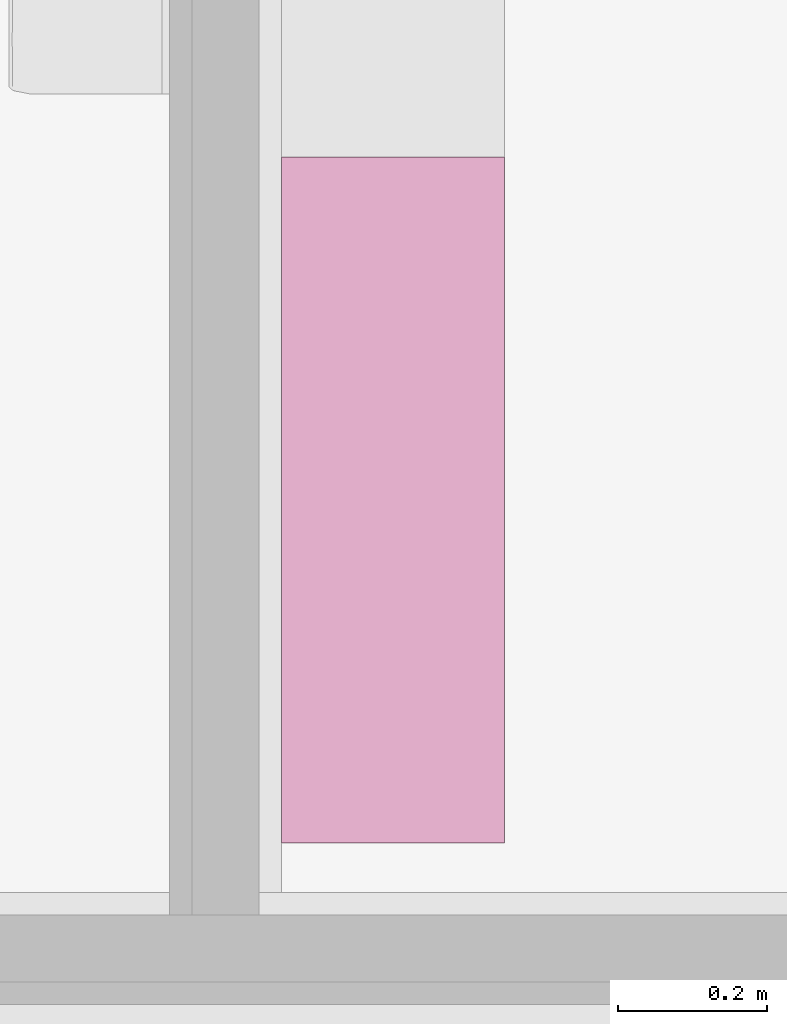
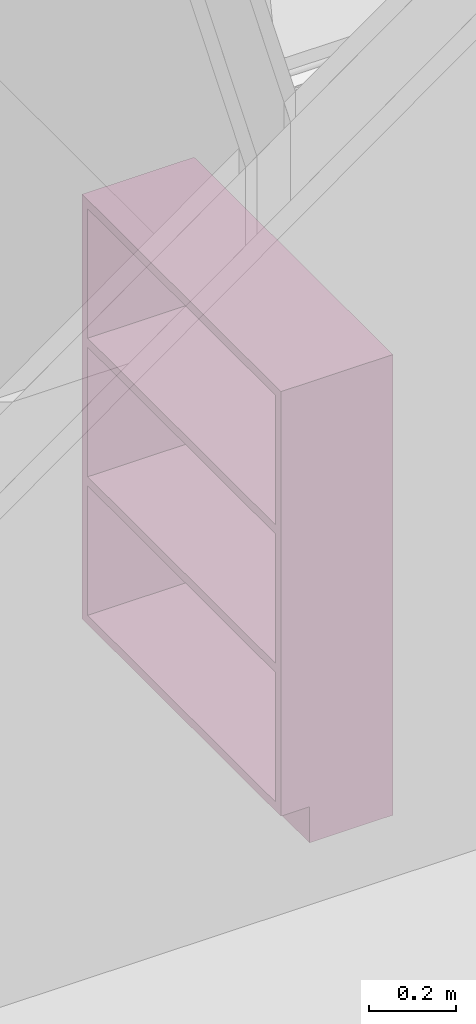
# One storey, part 74 of 155: 1 furnishing.
"""IFC2X3 building model written with IfcOpenShell, lengths in metres."""

import ifcopenshell
import ifcopenshell.guid

model = None  # the IFC model being written
_history = None  # IfcOwnerHistory: only IFC2X3 demands one
_inside = {}  # id of a spatial element -> (the spatial element, [elements in it])
_under = {}  # id of a project, library or spatial element -> (it, [spatial elements below it])
_declared = {}  # id of a project -> (the project, [libraries it declares])
_typed = {}  # id of a type object -> (the type object, [elements of that type])
_made_of = {}  # id of a material, layer set ... -> (it, [elements and type objects made of it])


def new_model(schema):
    """Start an empty IFC model of exactly this schema.

    Asked for "IFC4X3", IfcOpenShell would pick the latest addendum, in which some entities
    have other attributes; the version numbers below select the first issue.
    IFC2X3 requires an IfcOwnerHistory on every rooted entity: one is made here for all.
    """
    global model, _history
    if schema == "IFC4X3":
        model = ifcopenshell.file(schema_version=(4, 3, 0, 0))
    else:
        model = ifcopenshell.file(schema=schema)
    _inside.clear()
    _under.clear()
    _declared.clear()
    _typed.clear()
    _made_of.clear()
    _history = None
    if model.schema == "IFC2X3":
        org = make("IfcOrganization", Name="unknown")
        user = make(
            "IfcPersonAndOrganization",
            ThePerson=make("IfcPerson", FamilyName="unknown"),
            TheOrganization=org,
        )
        app = make(
            "IfcApplication",
            ApplicationDeveloper=org,
            Version="unknown",
            ApplicationFullName="unknown",
            ApplicationIdentifier="unknown",
        )
        _history = make(
            "IfcOwnerHistory",
            OwningUser=user,
            OwningApplication=app,
            ChangeAction="ADDED",
            CreationDate=0,
        )
    return model


def make(cls, **values):
    """One entity of the class cls with the attributes given. An attribute that is None is left unset."""
    return model.create_entity(
        cls, **{name: value for name, value in values.items() if value is not None}
    )


def entity(cls, *values):
    """Any entity or typed value of the class cls, its attributes in the order of the schema. None: left unset."""
    e = model.create_entity(cls)
    for i, value in enumerate(values):
        if value is not None:
            e[i] = value
    return e


def rooted(cls, **values):
    """An entity with a GlobalId (a new one), such as an element, a storey or a relation."""
    return make(cls, GlobalId=ifcopenshell.guid.new(), OwnerHistory=_history, **values)


def si_unit(unit_type, name, prefix=None):
    """IfcSIUnit, for example si_unit("LENGTHUNIT", "METRE", prefix="MILLI")."""
    return make("IfcSIUnit", UnitType=unit_type, Prefix=prefix, Name=name)


def converted_unit(unit_type, name, factor, base, dimensions=None, offset=None):
    """IfcConversionBasedUnit, such as the inch: factor (a typed value) times the base unit."""
    return make(
        "IfcConversionBasedUnit"
        if offset is None
        else "IfcConversionBasedUnitWithOffset",
        ConversionOffset=offset,
        Dimensions=None
        if dimensions is None
        else entity("IfcDimensionalExponents", *dimensions),
        UnitType=unit_type,
        Name=name,
        ConversionFactor=make(
            "IfcMeasureWithUnit", ValueComponent=factor, UnitComponent=base
        ),
    )


def derived_unit(unit_type, elements):
    """IfcDerivedUnit: a product of units, each with its exponent."""
    return make(
        "IfcDerivedUnit",
        Elements=[
            make("IfcDerivedUnitElement", Unit=unit, Exponent=power)
            for unit, power in elements
        ],
        UnitType=unit_type,
    )


def assignment(units):
    """IfcUnitAssignment: the units of a project."""
    return None if units is None else make("IfcUnitAssignment", Units=units)


def point(xyz):
    """IfcCartesianPoint."""
    return None if xyz is None else make("IfcCartesianPoint", Coordinates=xyz)


def direction(xyz):
    """IfcDirection."""
    return None if xyz is None else make("IfcDirection", DirectionRatios=xyz)


def frame(location, z_axis=None, x_axis=None):
    """IfcAxis2Placement3D, a coordinate frame: its origin and axes. An axis left out is left unset."""
    return make(
        "IfcAxis2Placement3D",
        Location=point(location),
        Axis=direction(z_axis),
        RefDirection=direction(x_axis),
    )


def frame_2d(location, x_axis=None):
    """IfcAxis2Placement2D, a coordinate frame in the plane: its origin and x axis."""
    return make(
        "IfcAxis2Placement2D", Location=point(location), RefDirection=direction(x_axis)
    )


def origin():
    """The frame at (0, 0, 0) with its axes left unset."""
    return frame((0.0, 0.0, 0.0))


def origin_2d_with_axis():
    """The frame at (0, 0) in the plane with the x axis (1, 0) written out."""
    return frame_2d((0.0, 0.0), x_axis=(1.0, 0.0))


def place(relative_to, where):
    """IfcLocalPlacement: puts the frame where relative to a parent placement (None: the world)."""
    return make(
        "IfcLocalPlacement", PlacementRelTo=relative_to, RelativePlacement=where
    )


def context(
    kind, dimensions, precision=None, world=None, true_north=None, identifier=None
):
    """IfcGeometricRepresentationContext, for example the 3D "Model" context."""
    return make(
        "IfcGeometricRepresentationContext",
        ContextIdentifier=identifier,
        ContextType=kind,
        CoordinateSpaceDimension=dimensions,
        Precision=precision,
        WorldCoordinateSystem=world,
        TrueNorth=true_north,
    )


def subcontext(parent, identifier, kind, view, scale=None):
    """IfcGeometricRepresentationSubContext, for example "Body" below "Model"."""
    return make(
        "IfcGeometricRepresentationSubContext",
        ContextIdentifier=identifier,
        ContextType=kind,
        ParentContext=parent,
        TargetScale=scale,
        TargetView=view,
    )


def project(units=None, contexts=None):
    """IfcProject with its units and contexts."""
    return rooted(
        "IfcProject",
        Name="project",
        RepresentationContexts=contexts,
        UnitsInContext=assignment(units),
    )


def spatial(cls, under=None, at=None, **own):
    """A site, building, storey or space (cls), placed at a placement, below another one or the project."""
    s = rooted(cls, ObjectPlacement=at, **own)
    if under is not None:
        _under.setdefault(under.id(), (under, []))[1].append(s)
    return s


def polyline(points):
    """IfcPolyline through the points."""
    return make("IfcPolyline", Points=[point(p) for p in points])


def profile(cls, at=None, kind="AREA", **sizes):
    """A parametric profile (cls). Its sizes go by their IFC names, for example OverallWidth=200.0."""
    return make(cls, ProfileType=kind, Position=at, **sizes)


def rectangle(**sizes):
    """IfcRectangleProfileDef."""
    return profile("IfcRectangleProfileDef", **sizes)


def outline(outer, holes=None, kind="AREA"):
    """IfcArbitraryClosedProfileDef: a profile drawn as a closed curve; with holes, ...WithVoids."""
    if holes is None:
        return make("IfcArbitraryClosedProfileDef", ProfileType=kind, OuterCurve=outer)
    return make(
        "IfcArbitraryProfileDefWithVoids",
        ProfileType=kind,
        OuterCurve=outer,
        InnerCurves=holes,
    )


def extrude(swept, where, along, depth):
    """IfcExtrudedAreaSolid: the profile swept, set in the frame where, extruded along a direction by depth."""
    return make(
        "IfcExtrudedAreaSolid",
        SweptArea=swept,
        Position=where,
        ExtrudedDirection=direction(along),
        Depth=depth,
    )


def shape(context_of_items, identifier, shape_type, items):
    """IfcShapeRepresentation: the items that make up one representation, for example the "Body"."""
    return make(
        "IfcShapeRepresentation",
        ContextOfItems=context_of_items,
        RepresentationIdentifier=identifier,
        RepresentationType=shape_type,
        Items=items,
    )


def source(mapping_origin, context_of_items, identifier, shape_type, items):
    """IfcRepresentationMap: a shape defined once, which mapped items show again and again."""
    return make(
        "IfcRepresentationMap",
        MappingOrigin=mapping_origin,
        MappedRepresentation=shape(context_of_items, identifier, shape_type, items),
    )


def transform(
    local_origin,
    x_axis=None,
    y_axis=None,
    z_axis=None,
    scale=None,
    scale2=None,
    scale3=None,
    uniform=True,
):
    """IfcCartesianTransformationOperator3D, or its non-uniform kind. x_axis, y_axis, z_axis: its Axis1, 2, 3."""
    if uniform:
        return make(
            "IfcCartesianTransformationOperator3D",
            Axis1=direction(x_axis),
            Axis2=direction(y_axis),
            LocalOrigin=point(local_origin),
            Scale=scale,
            Axis3=direction(z_axis),
        )
    return make(
        "IfcCartesianTransformationOperator3DnonUniform",
        Axis1=direction(x_axis),
        Axis2=direction(y_axis),
        LocalOrigin=point(local_origin),
        Scale=scale,
        Axis3=direction(z_axis),
        Scale2=scale2,
        Scale3=scale3,
    )


def mapped(mapping_source, mapping_target):
    """IfcMappedItem: shows the shape of a source again, moved by a transform."""
    return make(
        "IfcMappedItem", MappingSource=mapping_source, MappingTarget=mapping_target
    )


def made_of(thing, what):
    """Note that an element or type object is made of a material, layer set ...; save() writes the relation."""
    if what is not None:
        _made_of.setdefault(what.id(), (what, []))[1].append(thing)
    return thing


def type_object(cls, material=None, **own):
    """A type object (cls), such as IfcWallType, which elements share."""
    return made_of(rooted(cls, **own), material)


def type_shapes(of_type, sources):
    """Give a type object the sources (RepresentationMaps) that its elements show as mapped items."""
    of_type.RepresentationMaps = sources


def element(
    cls,
    number,
    at=None,
    inside=None,
    cuts=None,
    type_object=None,
    material=None,
    context=None,
    identifier="Body",
    shape_type=None,
    held_by="IfcProductDefinitionShape",
    body=None,
    shapes=None,
    **own,
):
    """One element of the class cls, such as IfcWall. Its Tag is "e" and its number.

    at: its placement. inside: the storey or other place that contains it. cuts: it is an
    opening in that element (IfcRelVoidsElement). A single representation is given by context,
    identifier, shape_type and body (its items); several are given by shapes. held_by: the class
    of the entity that holds the representations. save() writes the other relations.
    """
    e = rooted(cls, Tag="e%d" % number, ObjectPlacement=at, **own)
    if body is not None:
        shapes = [shape(context, identifier, shape_type, body)]
    if shapes is not None:
        e.Representation = make(held_by, Representations=shapes)
    if inside is not None:
        _inside.setdefault(inside.id(), (inside, []))[1].append(e)
    if cuts is not None:
        rooted(
            "IfcRelVoidsElement", RelatingBuildingElement=cuts, RelatedOpeningElement=e
        )
    if type_object is not None:
        _typed.setdefault(type_object.id(), (type_object, []))[1].append(e)
    return made_of(e, material)


def aggregate(whole, parts):
    """IfcRelAggregates: a whole, such as a stair, and the parts it consists of."""
    return rooted("IfcRelAggregates", RelatingObject=whole, RelatedObjects=parts)


def save(model, path):
    """Write the relations noted so far, then the file.

    IfcRelAggregates (storeys below a building ...), IfcRelContainedInSpatialStructure (elements
    in a storey), IfcRelDefinesByType, IfcRelAssociatesMaterial and IfcRelDeclares: one each for
    every whole, place, type object, material and project.
    """
    for whole, parts in _under.values():
        aggregate(whole, parts)
    for where, things in _inside.values():
        rooted(
            "IfcRelContainedInSpatialStructure",
            RelatedElements=things,
            RelatingStructure=where,
        )
    for kind, things in _typed.values():
        rooted("IfcRelDefinesByType", RelatedObjects=things, RelatingType=kind)
    for what, things in _made_of.values():
        rooted("IfcRelAssociatesMaterial", RelatedObjects=things, RelatingMaterial=what)
    for by, libraries in _declared.values():
        rooted("IfcRelDeclares", RelatingContext=by, RelatedDefinitions=libraries)
    model.write(path)


model = new_model("IFC2X3")

# Units and contexts
model_context = context("Model", 3, precision=1e-05, world=origin(), true_north=direction((6.12303176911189e-17, 1.0)))
body_context = subcontext(model_context, "Body", "Model", "MODEL_VIEW")
ifc_project = project(units=[si_unit("LENGTHUNIT", "METRE"), si_unit("AREAUNIT", "SQUARE_METRE"), si_unit("VOLUMEUNIT", "CUBIC_METRE"), converted_unit("PLANEANGLEUNIT", "DEGREE", entity("IfcRatioMeasure", 0.0174532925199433), si_unit("PLANEANGLEUNIT", "RADIAN"), dimensions=[0, 0, 0, 0, 0, 0, 0]), si_unit("MASSUNIT", "GRAM", prefix="KILO"), derived_unit("MASSDENSITYUNIT", [(si_unit("MASSUNIT", "GRAM", prefix="KILO"), 1), (si_unit("LENGTHUNIT", "METRE"), -3)]), si_unit("TIMEUNIT", "SECOND"), si_unit("FREQUENCYUNIT", "HERTZ"), si_unit("THERMODYNAMICTEMPERATUREUNIT", "DEGREE_CELSIUS"), derived_unit("THERMALTRANSMITTANCEUNIT", [(si_unit("MASSUNIT", "GRAM", prefix="KILO"), 1), (si_unit("THERMODYNAMICTEMPERATUREUNIT", "KELVIN"), -1), (si_unit("TIMEUNIT", "SECOND"), -3)]), derived_unit("VOLUMETRICFLOWRATEUNIT", [(si_unit("LENGTHUNIT", "METRE"), 3), (si_unit("TIMEUNIT", "SECOND"), -1)]), si_unit("ELECTRICCURRENTUNIT", "AMPERE"), si_unit("ELECTRICVOLTAGEUNIT", "VOLT"), si_unit("POWERUNIT", "WATT"), si_unit("FORCEUNIT", "NEWTON", prefix="KILO"), si_unit("ILLUMINANCEUNIT", "LUX"), si_unit("LUMINOUSFLUXUNIT", "LUMEN"), si_unit("LUMINOUSINTENSITYUNIT", "CANDELA"), derived_unit("USERDEFINED", [(si_unit("MASSUNIT", "GRAM", prefix="KILO"), -1), (si_unit("LENGTHUNIT", "METRE"), -2), (si_unit("TIMEUNIT", "SECOND"), 3), (si_unit("LUMINOUSFLUXUNIT", "LUMEN"), 1)]), derived_unit("LINEARVELOCITYUNIT", [(si_unit("LENGTHUNIT", "METRE"), 1), (si_unit("TIMEUNIT", "SECOND"), -1)]), si_unit("PRESSUREUNIT", "PASCAL"), derived_unit("USERDEFINED", [(si_unit("LENGTHUNIT", "METRE"), -2), (si_unit("MASSUNIT", "GRAM", prefix="KILO"), 1), (si_unit("TIMEUNIT", "SECOND"), -2)])], contexts=[model_context])

# Site, building, storey, space
site_placement = place(None, frame((26.9889013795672, -17.5624287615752, 0.0)))
site = spatial("IfcSite", under=ifc_project, at=site_placement, Name="Default", CompositionType="ELEMENT")
building_placement = place(site_placement, origin())
building = spatial("IfcBuilding", under=site, at=building_placement, Name="C. C. L. Monsenhor Antônio Sampaio", CompositionType="ELEMENT")
storey_placement = place(building_placement, frame((0.0, 0.0, 1.19999999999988)))
storey = spatial("IfcBuildingStorey", under=building, at=storey_placement, Name="Nível 1.2", CompositionType="ELEMENT", Elevation=1.19999999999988)
space_placement = place(storey_placement, origin())
space = spatial("IfcSpace", under=storey, at=space_placement, Name="79", CompositionType="ELEMENT", InteriorOrExteriorSpace="INTERNAL")

# Furnishing
furniture_type = type_object("IfcFurnitureType", Name="Shelving_Unit_-_Fully_Parametric_12010")
shared_shape = source(origin(), body_context, "Body", "SweptSolid", [
    extrude(rectangle(XDim=0.298954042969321, YDim=0.868105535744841, at=origin_2d_with_axis()), frame((0.0, 0.149477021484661, 0.883599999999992), z_axis=(0.0, 0.0, 1.0), x_axis=(0.0, -1.0, 0.0)), (0.0, 0.0, 1.0), 0.0254),
    extrude(rectangle(XDim=0.298954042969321, YDim=0.868105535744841, at=origin_2d_with_axis()), frame((0.0, 0.149477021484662, 0.492599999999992), z_axis=(0.0, 0.0, 1.0), x_axis=(0.0, -1.0, 0.0)), (0.0, 0.0, 1.0), 0.0254),
    extrude(rectangle(XDim=0.298954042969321, YDim=0.868105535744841, at=frame_2d((0.0, 2.77555756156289e-17), x_axis=(1.0, 0.0))), frame((0.0, 0.149477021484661, 1.27459999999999), z_axis=(0.0, 0.0, 1.0), x_axis=(0.0, -1.0, 0.0)), (0.0, 0.0, 1.0), 0.0253999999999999),
    extrude(rectangle(XDim=0.298954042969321, YDim=0.868105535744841, at=origin_2d_with_axis()), frame((0.0, 0.149477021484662, 0.101599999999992), z_axis=(0.0, 0.0, 1.0), x_axis=(0.0, -1.0, 0.0)), (0.0, 0.0, 1.0), 0.0254),
    extrude(rectangle(XDim=0.00635000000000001, YDim=0.86810553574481, at=frame_2d((1.69135538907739e-17, 0.0), x_axis=(1.0, 0.0))), frame((0.0, 0.295779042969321, 0.126999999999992), z_axis=(0.0, 0.0, 1.0), x_axis=(0.0, -1.0, 0.0)), (0.0, 0.0, 1.0), 1.1476),
    extrude(rectangle(XDim=0.015875, YDim=0.868105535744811, at=origin_2d_with_axis()), frame((0.0, 0.0841374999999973, 0.0), z_axis=(0.0, 0.0, 1.0), x_axis=(0.0, -1.0, 0.0)), (0.0, 0.0, 1.0), 0.101599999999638),
    extrude(outline(polyline([(-0.125051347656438, 0.365599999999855), (-0.125051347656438, -0.832799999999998), (0.17390269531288, -0.832799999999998), (0.17390269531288, 0.467200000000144), (-0.0488513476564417, 0.467200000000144), (-0.0488513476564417, 0.365599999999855), (-0.125051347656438, 0.365599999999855)])), frame((-0.459452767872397, 0.125051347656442, 0.467199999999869), z_axis=(-1.0, 0.0, 0.0), x_axis=(0.0, 1.0, 0.0)), (0.0, 0.0, -1.0), 0.0254),
    extrude(outline(polyline([(-0.125051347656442, 0.365599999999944), (-0.125051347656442, -0.832799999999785), (0.173902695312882, -0.832799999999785), (0.173902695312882, 0.467199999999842), (-0.0488513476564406, 0.467199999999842), (-0.0488513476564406, 0.365599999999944), (-0.125051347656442, 0.365599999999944)])), frame((0.434052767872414, 0.12505134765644, 0.467200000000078), z_axis=(-1.0, 0.0, 0.0), x_axis=(0.0, 1.0, 0.0)), (0.0, 0.0, -1.0), 0.0254),
])
type_shapes(furniture_type, [shared_shape])
furnishing_placement = place(space_placement, frame((-6.14055229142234, -38.7768516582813, 0.0), z_axis=(0.0, 0.0, 1.0), x_axis=(0.0, -1.0, 0.0)))
element("IfcFurnishingElement", 1, at=furnishing_placement, inside=space, type_object=furniture_type, Name="Shelving_Unit_-_Fully_Parametric_12010:Shelving_Unit_-_Fully_Parametric_12010", ObjectType="Shelving_Unit_-_Fully_Parametric_12010", context=body_context, shape_type="MappedRepresentation", body=[
    mapped(shared_shape, transform((0.0, 0.0, 0.0), scale=1.0)),
])

save(model, "model.ifc")
